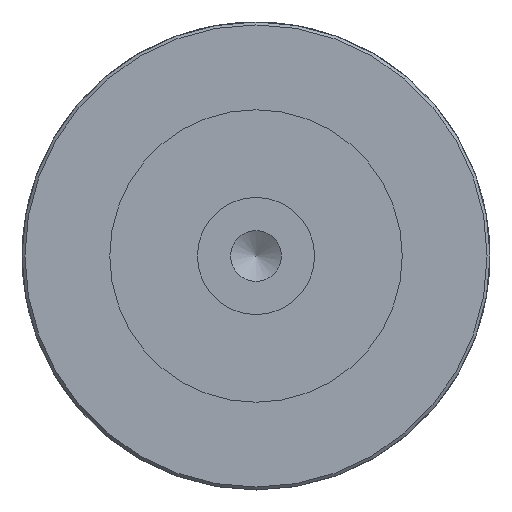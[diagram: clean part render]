
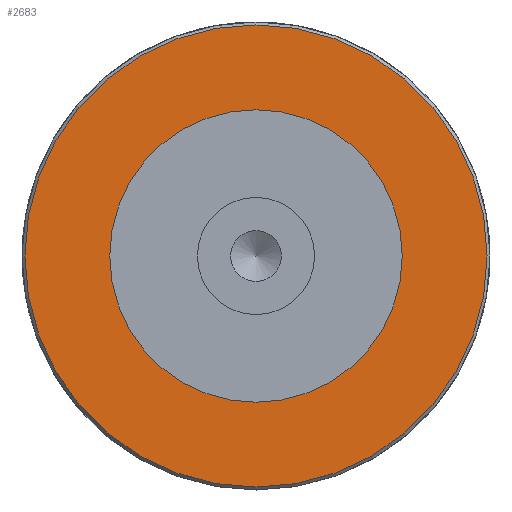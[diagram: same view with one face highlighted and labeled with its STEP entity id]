
A CAD part, left-side view. The second image highlights one B-rep face of the part: STEP entity #2683.
In plain terms, the highlighted planar face has unit normal (-1, 0, 0).
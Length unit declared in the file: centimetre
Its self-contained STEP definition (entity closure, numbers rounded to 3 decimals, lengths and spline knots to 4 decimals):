
#881=PLANE('',#2851);
#939=CIRCLE('',#2850,5.);
#940=CIRCLE('',#2852,7.9);
#1020=VERTEX_POINT('',#3512);
#1021=VERTEX_POINT('',#3515);
#1313=EDGE_CURVE('',#1020,#1020,#939,.T.);
#1314=EDGE_CURVE('',#1021,#1021,#940,.T.);
#1637=ORIENTED_EDGE('',*,*,#1313,.T.);
#1638=ORIENTED_EDGE('',*,*,#1314,.F.);
#2267=EDGE_LOOP('',(#1637));
#2268=EDGE_LOOP('',(#1638));
#2477=FACE_BOUND('',#2267,.T.);
#2478=FACE_BOUND('',#2268,.T.);
#2683=ADVANCED_FACE('',(#2477,#2478),#881,.T.);
#2850=AXIS2_PLACEMENT_3D('',#3511,#3058,#3059);
#2851=AXIS2_PLACEMENT_3D('',#3513,#3060,$);
#2852=AXIS2_PLACEMENT_3D('',#3514,#3061,#3062);
#3058=DIRECTION('',(1.,0.,0.));
#3059=DIRECTION('',(0.,5.,0.));
#3060=DIRECTION('',(-1.,0.,0.));
#3061=DIRECTION('',(1.,0.,0.));
#3062=DIRECTION('',(0.,0.,7.9));
#3511=CARTESIAN_POINT('',(0.,0.,0.));
#3512=CARTESIAN_POINT('',(0.,-5.,0.));
#3513=CARTESIAN_POINT('',(0.,0.,-4.));
#3514=CARTESIAN_POINT('',(0.,0.,0.));
#3515=CARTESIAN_POINT('',(0.,0.,-7.9));
